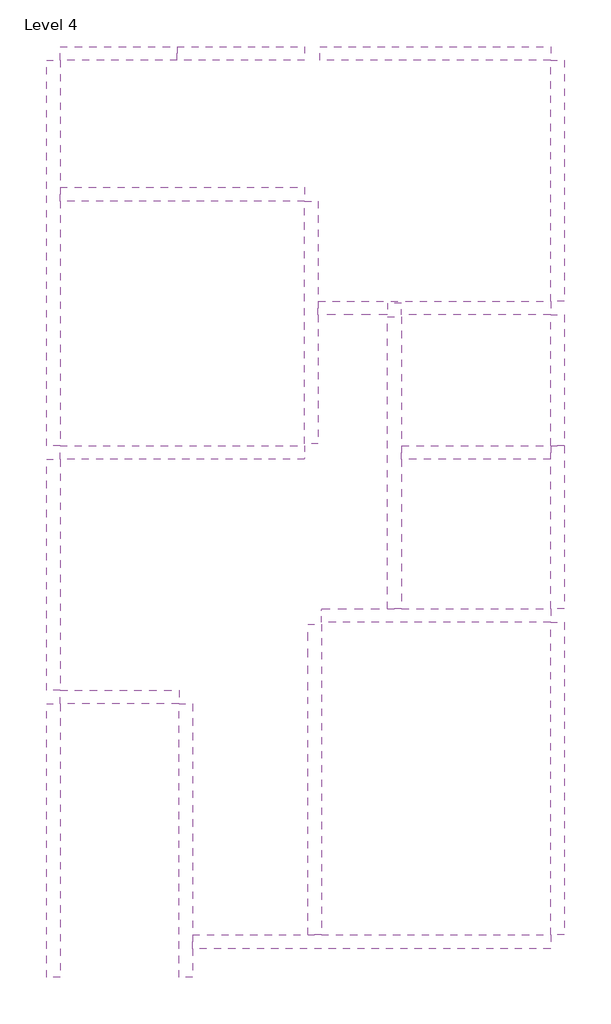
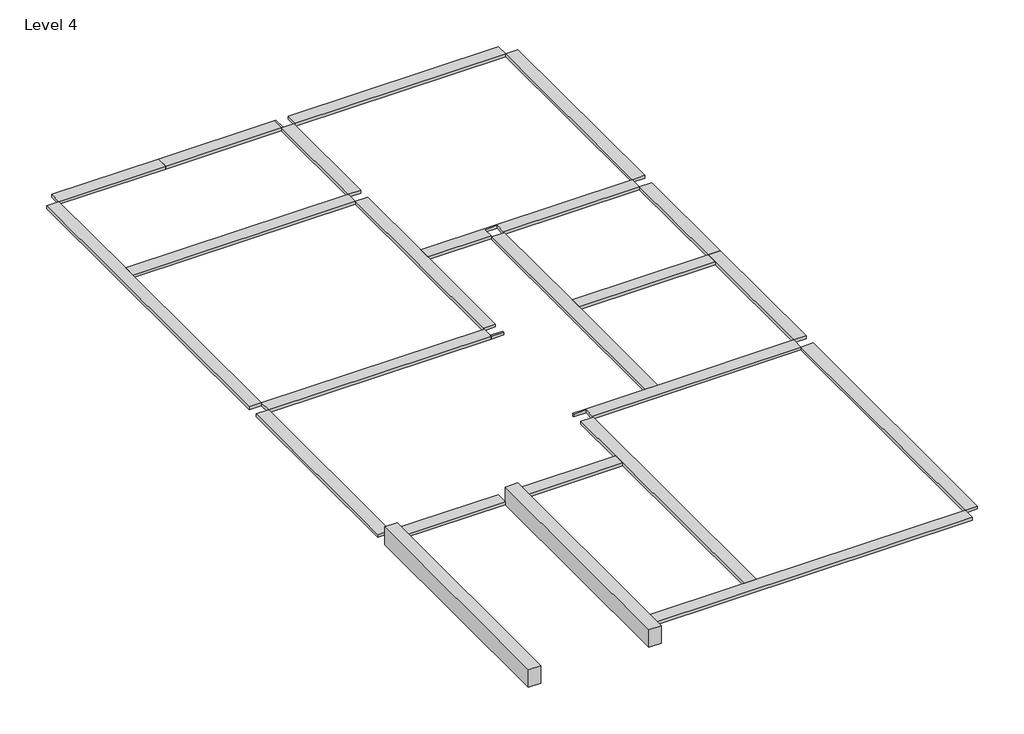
# One storey: 21 beams.
"""IFC4 building model written with IfcOpenShell, lengths in millimetres."""

from ifc_helpers import new_model, si_unit, frame, origin, place, context, project, spatial, polyline, outline, extrude, faceted_brep, element, save

model = new_model("IFC4")

# Units and contexts
model_context = context("Model", 3, world=origin())
ifc_project = project(units=[si_unit("LENGTHUNIT", "METRE", prefix="MILLI")], contexts=[model_context])

# Site, building, storey
site = spatial("IfcSite", under=ifc_project)
building = spatial("IfcBuilding", under=site)
storey = spatial("IfcBuildingStorey", under=building, Name="Level 4", Elevation=1027.6687095)

# Beams
placement = place(None, origin())
element("IfcBeam", 1, ObjectType="Concrete-Rectangular Beam : 8 x 12", at=placement, inside=storey, context=model_context, shape_type="Brep", body=[
    faceted_brep([(4582.4084791, -5664.0926766, 2743.2), (4582.4084791, -5664.0926766, 2794.0), (-776.9915209, -5664.0926766, 2794.0), (-776.9915209, -5664.0926766, 2743.2), (4582.4084791, -5460.8926766, 2743.2), (-776.9915209, -5460.8926766, 2743.2), (950.2084791, -5460.8926766, 2743.2), (1153.4084791, -5460.8926766, 2743.2), (4582.4084791, -5460.8926766, 2794.0), (-776.9915209, -5460.8926766, 2794.0), (950.2084791, -5460.8926766, 2794.0), (1153.4084791, -5460.8926766, 2794.0)], [[[0, 1, 2, 3]], [[4, 0, 3, 5, 6, 7]], [[8, 4, 7, 6, 5, 9, 10, 11]], [[0, 4, 8, 1]], [[2, 1, 8, 11, 10, 9]], [[3, 2, 9, 5]]]),
])
element("IfcBeam", 2, ObjectType="Concrete-Rectangular Beam : 8 x 12", at=placement, inside=storey, context=model_context, shape_type="SweptSolid", body=[
    extrude(outline(polyline([(4582.4084791, -787.2926766), (4785.6084791, -787.2926766), (4785.6084791, -5460.8926766), (4582.4084791, -5460.8926766), (4582.4084791, -787.2926766)])), frame((0.0, 0.0, 2743.2), z_axis=(0.0, 0.0, 1.0), x_axis=(1.0, 0.0, 0.0)), (0.0, 0.0, 1.0), 50.8),
])
element("IfcBeam", 3, ObjectType="Concrete-Rectangular Beam : 8 x 12", at=placement, inside=storey, context=model_context, shape_type="Brep", body=[
    faceted_brep([(4785.6084791, -584.0926766, 2743.2), (4785.6084791, 1854.3073234, 2743.2), (4785.6084791, 1854.3073234, 2794.0), (4785.6084791, -584.0926766, 2794.0), (4582.4084791, -584.0926766, 2743.2), (4582.4084791, 1651.1073234, 2743.2), (4582.4084791, 1854.3073234, 2743.2), (4582.4084791, -584.0926766, 2794.0), (4582.4084791, 1651.1073234, 2794.0), (4582.4084791, 1854.3073234, 2794.0)], [[[0, 1, 2, 3]], [[0, 4, 5, 6, 1]], [[6, 5, 4, 7, 8, 9]], [[4, 0, 3, 7]], [[1, 6, 9, 2]], [[3, 2, 9, 8, 7]]]),
])
element("IfcBeam", 4, ObjectType="Concrete-Rectangular Beam : 8 x 12", at=placement, inside=storey, context=model_context, shape_type="SweptSolid", body=[
    extrude(outline(polyline([(4582.4084791, 3810.1073234), (4785.6084791, 3810.1073234), (4785.6084791, 1854.3073234), (4582.4084791, 1854.3073234), (4582.4084791, 3810.1073234)])), frame((0.0, 0.0, 2743.2), z_axis=(0.0, 0.0, 1.0), x_axis=(1.0, 0.0, 0.0)), (0.0, 0.0, 1.0), 50.8),
])
element("IfcBeam", 5, ObjectType="Concrete-Rectangular Beam : 8 x 12", at=placement, inside=storey, context=model_context, shape_type="SweptSolid", body=[
    extrude(outline(polyline([(4785.6084791, 7620.1073234), (4785.6084791, 4013.3073234), (4582.4084791, 4013.3073234), (4582.4084791, 7620.1073234), (4785.6084791, 7620.1073234)])), frame((0.0, 0.0, 2743.2), z_axis=(0.0, 0.0, 1.0), x_axis=(1.0, 0.0, 0.0)), (0.0, 0.0, 1.0), 50.8),
])
element("IfcBeam", 6, ObjectType="Concrete-Rectangular Beam : 8 x 12", at=placement, inside=storey, context=model_context, shape_type="SweptSolid", body=[
    extrude(outline(polyline([(4582.4084791, 7823.3073234), (4582.4084791, 7620.1073234), (1128.0084791, 7620.1073234), (1128.0084791, 7823.3073234), (4582.4084791, 7823.3073234)])), frame((0.0, 0.0, 2743.2), z_axis=(0.0, 0.0, 1.0), x_axis=(1.0, 0.0, 0.0)), (0.0, 0.0, 1.0), 50.8),
    extrude(outline(polyline([(899.4084791, 7620.1073234), (899.4084791, 7823.3073234), (924.8084791, 7823.3073234), (924.8084791, 7620.1073234), (899.4084791, 7620.1073234)])), frame((0.0, 0.0, 2743.2), z_axis=(0.0, 0.0, 1.0), x_axis=(1.0, 0.0, 0.0)), (0.0, 0.0, 1.0), 50.8),
])
element("IfcBeam", 7, ObjectType="Concrete-Rectangular Beam : 8 x 12", at=placement, inside=storey, context=model_context, shape_type="SweptSolid", body=[
    extrude(outline(polyline([(899.4084791, 7823.3073234), (899.4084791, 7620.1073234), (-1005.5915209, 7620.1073234), (-1005.5915209, 7823.3073234), (899.4084791, 7823.3073234)])), frame((0.0, 0.0, 2743.2), z_axis=(0.0, 0.0, 1.0), x_axis=(1.0, 0.0, 0.0)), (0.0, 0.0, 1.0), 50.8),
])
element("IfcBeam", 8, ObjectType="Concrete-Rectangular Beam : 8 x 12", at=placement, inside=storey, context=model_context, shape_type="SweptSolid", body=[
    extrude(outline(polyline([(-2758.1915209, 7823.3073234), (-1005.5915209, 7823.3073234), (-1005.5915209, 7620.1073234), (-2758.1915209, 7620.1073234), (-2758.1915209, 7823.3073234)])), frame((0.0, 0.0, 2743.2), z_axis=(0.0, 0.0, 1.0), x_axis=(1.0, 0.0, 0.0)), (0.0, 0.0, 1.0), 50.8),
])
element("IfcBeam", 9, ObjectType="Concrete-Rectangular Beam : 8 x 12", at=placement, inside=storey, context=model_context, shape_type="Brep", body=[
    faceted_brep([(-2961.3915209, 7620.1073234, 2743.2), (-2961.3915209, 1854.3073234, 2743.2), (-2961.3915209, 1854.3073234, 2794.0), (-2961.3915209, 7620.1073234, 2794.0), (-2758.1915209, 7620.1073234, 2743.2), (-2758.1915209, 5716.6948234, 2743.2), (-2758.1915209, 5513.4948234, 2743.2), (-2758.1915209, 1854.3073234, 2743.2), (-2758.1915209, 7620.1073234, 2794.0), (-2758.1915209, 5716.6948234, 2794.0), (-2758.1915209, 5513.4948234, 2794.0), (-2758.1915209, 1854.3073234, 2794.0)], [[[0, 1, 2, 3]], [[0, 4, 5, 6, 7, 1]], [[7, 6, 5, 4, 8, 9, 10, 11]], [[4, 0, 3, 8]], [[1, 7, 11, 2]], [[3, 2, 11, 10, 9, 8]]]),
])
element("IfcBeam", 10, ObjectType="Concrete-Rectangular Beam : 8 x 12", at=placement, inside=storey, context=model_context, shape_type="SweptSolid", body=[
    extrude(outline(polyline([(-2961.3915209, 1651.1073234), (-2758.1915209, 1651.1073234), (-2758.1915209, -1803.2926766), (-2961.3915209, -1803.2926766), (-2961.3915209, 1651.1073234)])), frame((0.0, 0.0, 2743.2), z_axis=(0.0, 0.0, 1.0), x_axis=(1.0, 0.0, 0.0)), (0.0, 0.0, 1.0), 50.8),
])
element("IfcBeam", 11, ObjectType="Concrete-Rectangular Beam : 8 x 12", at=placement, inside=storey, context=model_context, shape_type="SweptSolid", body=[
    extrude(outline(polyline([(-980.1915209, -1803.2926766), (-980.1915209, -2006.4926766), (-2758.1915209, -2006.4926766), (-2758.1915209, -1803.2926766), (-980.1915209, -1803.2926766)])), frame((0.0, 0.0, 2743.2), z_axis=(0.0, 0.0, 1.0), x_axis=(1.0, 0.0, 0.0)), (0.0, 0.0, 1.0), 50.8),
    extrude(outline(polyline([(-776.9915209, -2006.4926766), (-776.9915209, -1803.2926766), (950.2084791, -1803.2926766), (950.2084791, -2006.4926766), (-776.9915209, -2006.4926766)])), frame((0.0, 0.0, 2743.2), z_axis=(0.0, 0.0, 1.0), x_axis=(1.0, 0.0, 0.0)), (0.0, 0.0, 1.0), 50.8),
])
element("IfcBeam", 12, ObjectType="Concrete-Rectangular Beam : 8 x 12", at=placement, inside=storey, context=model_context, shape_type="Brep", body=[
    faceted_brep([(950.2084791, -812.6926766, 2743.2), (950.2084791, -1803.2926766, 2743.2), (950.2084791, -2006.4926766, 2743.2), (950.2084791, -5460.8926766, 2743.2), (950.2084791, -5460.8926766, 2794.0), (950.2084791, -2006.4926766, 2794.0), (950.2084791, -1803.2926766, 2794.0), (950.2084791, -812.6926766, 2794.0), (1153.4084791, -812.6926766, 2743.2), (1153.4084791, -5460.8926766, 2743.2), (1153.4084791, -812.6926766, 2794.0), (1153.4084791, -5460.8926766, 2794.0)], [[[0, 1, 2, 3, 4, 5, 6, 7]], [[0, 8, 9, 3, 2, 1]], [[9, 8, 10, 11]], [[8, 0, 7, 10]], [[3, 9, 11, 4]], [[7, 6, 5, 4, 11, 10]]]),
    faceted_brep([(1153.4084791, -584.0926766, 2743.2), (950.2084791, -584.0926766, 2743.2), (950.2084791, -584.0926766, 2794.0), (1153.4084791, -584.0926766, 2794.0), (950.2084791, -609.4926766, 2743.2), (1153.4084791, -609.4926766, 2743.2), (1153.4084791, -609.4926766, 2794.0), (950.2084791, -609.4926766, 2794.0)], [[[0, 1, 2, 3]], [[4, 5, 6, 7]], [[1, 4, 7, 2]], [[1, 0, 5, 4]], [[5, 0, 3, 6]], [[3, 2, 7, 6]]]),
])
element("IfcBeam", 13, ObjectType="Concrete-Rectangular Beam : 8 x 12", at=placement, inside=storey, context=model_context, shape_type="Brep", body=[
    faceted_brep([(1153.4084791, -787.2926766, 2743.2), (4582.4084791, -787.2926766, 2743.2), (4582.4084791, -787.2926766, 2794.0), (1153.4084791, -787.2926766, 2794.0), (1153.4084791, -609.4926766, 2743.2), (1153.4084791, -584.0926766, 2743.2), (2144.0084791, -584.0926766, 2743.2), (2347.2084791, -584.0926766, 2743.2), (4582.4084791, -584.0926766, 2743.2), (1153.4084791, -584.0926766, 2794.0), (2144.0084791, -584.0926766, 2794.0), (2347.2084791, -584.0926766, 2794.0), (4582.4084791, -584.0926766, 2794.0), (1153.4084791, -609.4926766, 2794.0)], [[[0, 1, 2, 3]], [[0, 4, 5, 6, 7, 8, 1]], [[8, 7, 6, 5, 9, 10, 11, 12]], [[5, 4, 0, 3, 13, 9]], [[1, 8, 12, 2]], [[3, 2, 12, 11, 10, 9, 13]]]),
])
element("IfcBeam", 14, ObjectType="Concrete-Rectangular Beam : 8 x 12", at=placement, inside=storey, context=model_context, shape_type="SweptSolid", body=[
    extrude(outline(polyline([(4582.4084791, 4013.3073234), (4582.4084791, 3810.1073234), (2347.2084791, 3810.1073234), (2347.2084791, 3987.9073234), (2144.0084791, 3987.9073234), (2144.0084791, 3810.1073234), (1102.6084791, 3810.1073234), (1102.6084791, 4013.3073234), (4582.4084791, 4013.3073234)])), frame((0.0, 0.0, 2743.2), z_axis=(0.0, 0.0, 1.0), x_axis=(1.0, 0.0, 0.0)), (0.0, 0.0, 1.0), 50.8),
])
element("IfcBeam", 15, ObjectType="Concrete-Rectangular Beam : 8 x 12", at=placement, inside=storey, context=model_context, shape_type="Brep", body=[
    faceted_brep([(1102.6084791, 1651.1073234, 2743.2), (1102.6084791, 1678.0948234, 2743.2), (1102.6084791, 1678.0948234, 2794.0), (1102.6084791, 1651.1073234, 2794.0), (899.4084791, 1651.1073234, 2743.2), (899.4084791, 1678.0948234, 2743.2), (899.4084791, 1651.1073234, 2794.0), (899.4084791, 1678.0948234, 2794.0)], [[[0, 1, 2, 3]], [[0, 4, 5, 1]], [[5, 4, 6, 7]], [[4, 0, 3, 6]], [[1, 5, 7, 2]], [[3, 2, 7, 6]]]),
    faceted_brep([(1102.6084791, 7620.1073234, 2743.2), (924.8084791, 7620.1073234, 2743.2), (899.4084791, 7620.1073234, 2743.2), (899.4084791, 7620.1073234, 2794.0), (924.8084791, 7620.1073234, 2794.0), (1102.6084791, 7620.1073234, 2794.0), (899.4084791, 5716.6948234, 2743.2), (1102.6084791, 5716.6948234, 2743.2), (1102.6084791, 5716.6948234, 2794.0), (899.4084791, 5716.6948234, 2794.0)], [[[0, 1, 2, 3, 4, 5]], [[6, 7, 8, 9]], [[7, 0, 5, 8]], [[2, 1, 0, 7, 6]], [[2, 6, 9, 3]], [[5, 4, 3, 9, 8]]]),
    faceted_brep([(899.4084791, 1881.2948234, 2743.2), (1102.6084791, 1881.2948234, 2743.2), (1102.6084791, 1881.2948234, 2794.0), (899.4084791, 1881.2948234, 2794.0), (1102.6084791, 5513.4948234, 2743.2), (899.4084791, 5513.4948234, 2743.2), (899.4084791, 5513.4948234, 2794.0), (1102.6084791, 5513.4948234, 2794.0), (1102.6084791, 3810.1073234, 2743.2), (1102.6084791, 4013.3073234, 2743.2), (1102.6084791, 4013.3073234, 2794.0), (1102.6084791, 3810.1073234, 2794.0)], [[[0, 1, 2, 3]], [[4, 5, 6, 7]], [[1, 8, 9, 4, 7, 10, 11, 2]], [[1, 0, 5, 4, 9, 8]], [[5, 0, 3, 6]], [[3, 2, 11, 10, 7, 6]]]),
])
element("IfcBeam", 16, ObjectType="Concrete-Rectangular Beam : 8 x 12", at=placement, inside=storey, context=model_context, shape_type="Brep", body=[
    faceted_brep([(-2758.1915209, 1651.1073234, 2743.2), (899.4084791, 1651.1073234, 2743.2), (899.4084791, 1651.1073234, 2794.0), (-2758.1915209, 1651.1073234, 2794.0), (899.4084791, 1854.3073234, 2743.2), (899.4084791, 1678.0948234, 2743.2), (-2758.1915209, 1854.3073234, 2743.2), (-2758.1915209, 1854.3073234, 2794.0), (899.4084791, 1854.3073234, 2794.0), (899.4084791, 1678.0948234, 2794.0)], [[[0, 1, 2, 3]], [[4, 5, 1, 0, 6]], [[4, 6, 7, 8]], [[1, 5, 4, 8, 9, 2]], [[6, 0, 3, 7]], [[3, 2, 9, 8, 7]]]),
])
element("IfcBeam", 17, ObjectType="Concrete-Rectangular Beam : 8 x 12", at=placement, inside=storey, context=model_context, shape_type="SweptSolid", body=[
    extrude(outline(polyline([(4582.4084791, 1854.3073234), (4582.4084791, 1651.1073234), (2347.2084791, 1651.1073234), (2347.2084791, 1854.3073234), (4582.4084791, 1854.3073234)])), frame((0.0, 0.0, 2743.2), z_axis=(0.0, 0.0, 1.0), x_axis=(1.0, 0.0, 0.0)), (0.0, 0.0, 1.0), 50.8),
])
element("IfcBeam", 18, ObjectType="Concrete-Rectangular Beam : 8 x 12", at=placement, inside=storey, context=model_context, shape_type="Brep", body=[
    faceted_brep([(2347.2084791, -584.0926766, 2743.2), (2347.2084791, 1651.1073234, 2743.2), (2347.2084791, 1854.3073234, 2743.2), (2347.2084791, 3784.7073234, 2743.2), (2347.2084791, 3784.7073234, 2794.0), (2347.2084791, 1854.3073234, 2794.0), (2347.2084791, 1651.1073234, 2794.0), (2347.2084791, -584.0926766, 2794.0), (2144.0084791, 3784.7073234, 2743.2), (2144.0084791, -584.0926766, 2743.2), (2144.0084791, -584.0926766, 2794.0), (2144.0084791, 3784.7073234, 2794.0)], [[[0, 1, 2, 3, 4, 5, 6, 7]], [[8, 3, 2, 1, 0, 9]], [[8, 9, 10, 11]], [[3, 8, 11, 4]], [[9, 0, 7, 10]], [[7, 6, 5, 4, 11, 10]]]),
])
element("IfcBeam", 19, ObjectType="Concrete-Rectangular Beam : 8 x 12", at=placement, inside=storey, context=model_context, shape_type="SweptSolid", body=[
    extrude(outline(polyline([(899.4084791, 5716.6948234), (899.4084791, 5513.4948234), (-2758.1915209, 5513.4948234), (-2758.1915209, 5716.6948234), (899.4084791, 5716.6948234)])), frame((0.0, 0.0, 2743.2), z_axis=(0.0, 0.0, 1.0), x_axis=(1.0, 0.0, 0.0)), (0.0, 0.0, 1.0), 50.8),
])
element("IfcBeam", 20, ObjectType="Concrete-Rectangular Beam : 8 x 12", at=placement, inside=storey, context=model_context, shape_type="Brep", body=[
    faceted_brep([(-776.9915209, -2006.4926766, 3048.0), (-980.1915209, -2006.4926766, 3048.0), (-980.1915209, -6095.8926766, 3048.0), (-776.9915209, -6095.8926766, 3048.0), (-776.9915209, -5664.0926766, 3048.0), (-980.1915209, -2006.4926766, 2794.0), (-980.1915209, -2006.4926766, 2743.2), (-980.1915209, -6095.8926766, 2743.2), (-776.9915209, -2006.4926766, 2743.2), (-776.9915209, -5460.8926766, 2743.2), (-776.9915209, -5664.0926766, 2743.2), (-776.9915209, -6095.8926766, 2743.2), (-776.9915209, -2006.4926766, 2794.0)], [[[0, 1, 2, 3, 4]], [[2, 1, 5, 6, 7]], [[6, 8, 9, 10, 11, 7]], [[11, 10, 9, 8, 12, 0, 4, 3]], [[1, 0, 12, 8, 6, 5]], [[3, 2, 7, 11]]]),
])
element("IfcBeam", 21, ObjectType="Concrete-Rectangular Beam : 8 x 12", at=placement, inside=storey, context=model_context, shape_type="Brep", body=[
    faceted_brep([(-2758.1915209, -2006.4926766, 3048.0), (-2961.3915209, -2006.4926766, 3048.0), (-2961.3915209, -6095.8926766, 3048.0), (-2758.1915209, -6095.8926766, 3048.0), (-2961.3915209, -2006.4926766, 2794.0), (-2961.3915209, -2006.4926766, 2743.2), (-2961.3915209, -6095.8926766, 2743.2), (-2758.1915209, -2006.4926766, 2743.2), (-2758.1915209, -6095.8926766, 2743.2), (-2758.1915209, -2006.4926766, 2794.0)], [[[0, 1, 2, 3]], [[2, 1, 4, 5, 6]], [[5, 7, 8, 6]], [[0, 3, 8, 7, 9]], [[1, 0, 9, 7, 5, 4]], [[3, 2, 6, 8]]]),
])

save(model, "model.ifc")
